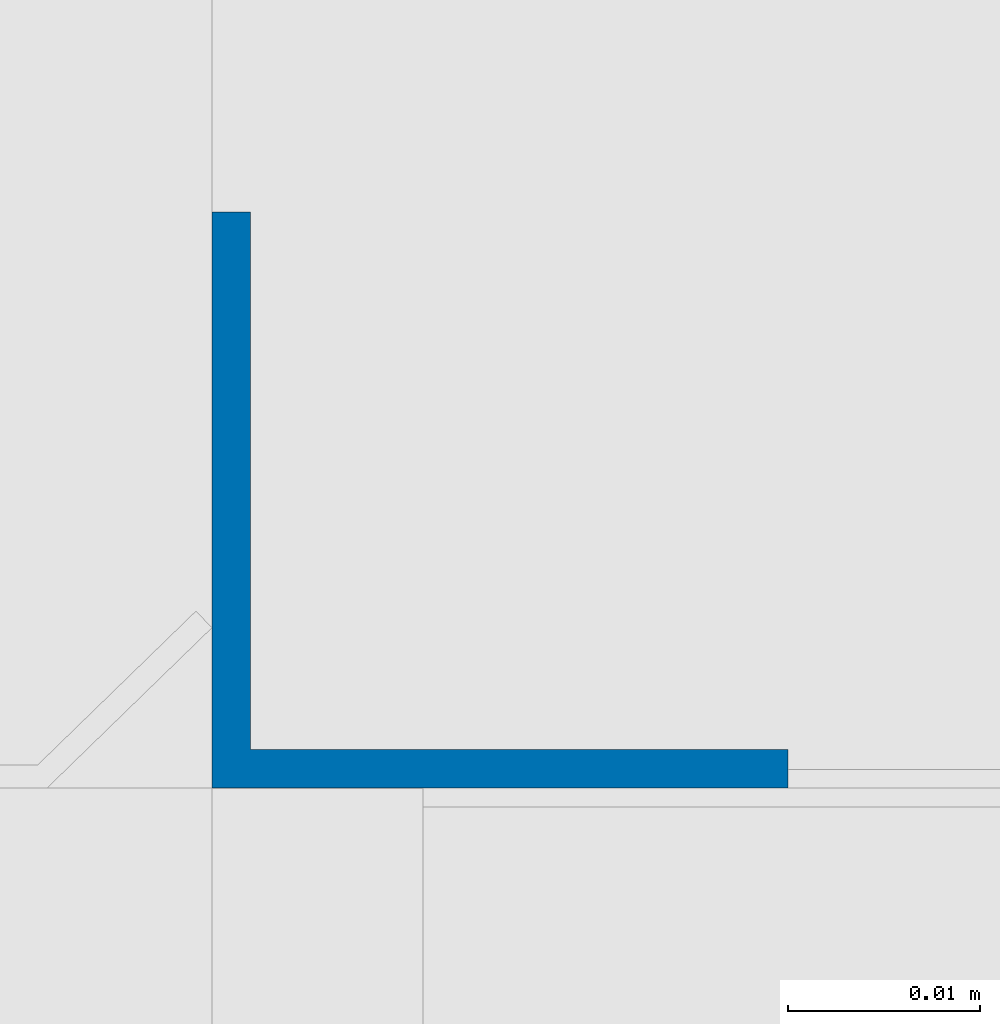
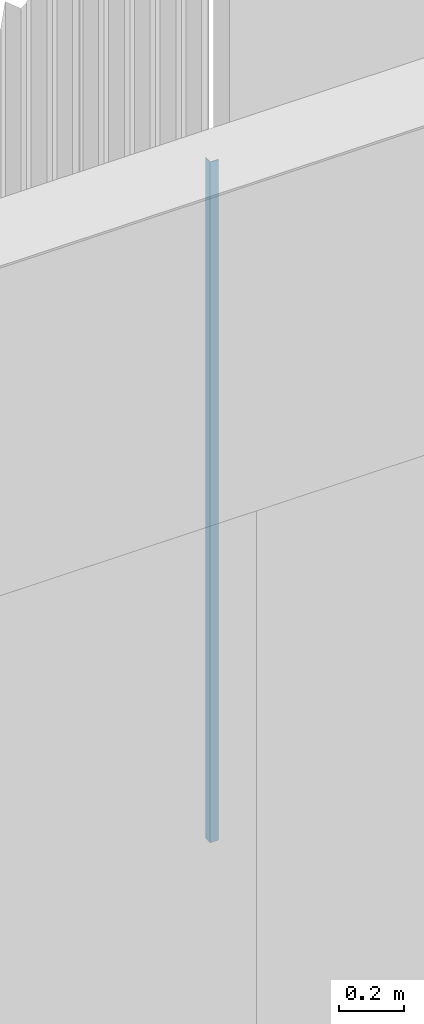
# One storey, part 33 of 338: 1 column.
"""IFC2X3 building model written with IfcOpenShell, lengths in millimetres."""

import ifcopenshell
import ifcopenshell.guid

model = None  # the IFC model being written
_history = None  # IfcOwnerHistory: only IFC2X3 demands one
_inside = {}  # id of a spatial element -> (the spatial element, [elements in it])
_under = {}  # id of a project, library or spatial element -> (it, [spatial elements below it])
_declared = {}  # id of a project -> (the project, [libraries it declares])
_typed = {}  # id of a type object -> (the type object, [elements of that type])
_made_of = {}  # id of a material, layer set ... -> (it, [elements and type objects made of it])


def new_model(schema):
    """Start an empty IFC model of exactly this schema.

    Asked for "IFC4X3", IfcOpenShell would pick the latest addendum, in which some entities
    have other attributes; the version numbers below select the first issue.
    IFC2X3 requires an IfcOwnerHistory on every rooted entity: one is made here for all.
    """
    global model, _history
    if schema == "IFC4X3":
        model = ifcopenshell.file(schema_version=(4, 3, 0, 0))
    else:
        model = ifcopenshell.file(schema=schema)
    _inside.clear()
    _under.clear()
    _declared.clear()
    _typed.clear()
    _made_of.clear()
    _history = None
    if model.schema == "IFC2X3":
        org = make("IfcOrganization", Name="unknown")
        user = make(
            "IfcPersonAndOrganization",
            ThePerson=make("IfcPerson", FamilyName="unknown"),
            TheOrganization=org,
        )
        app = make(
            "IfcApplication",
            ApplicationDeveloper=org,
            Version="unknown",
            ApplicationFullName="unknown",
            ApplicationIdentifier="unknown",
        )
        _history = make(
            "IfcOwnerHistory",
            OwningUser=user,
            OwningApplication=app,
            ChangeAction="ADDED",
            CreationDate=0,
        )
    return model


def make(cls, **values):
    """One entity of the class cls with the attributes given. An attribute that is None is left unset."""
    return model.create_entity(
        cls, **{name: value for name, value in values.items() if value is not None}
    )


def entity(cls, *values):
    """Any entity or typed value of the class cls, its attributes in the order of the schema. None: left unset."""
    e = model.create_entity(cls)
    for i, value in enumerate(values):
        if value is not None:
            e[i] = value
    return e


def rooted(cls, **values):
    """An entity with a GlobalId (a new one), such as an element, a storey or a relation."""
    return make(cls, GlobalId=ifcopenshell.guid.new(), OwnerHistory=_history, **values)


def si_unit(unit_type, name, prefix=None):
    """IfcSIUnit, for example si_unit("LENGTHUNIT", "METRE", prefix="MILLI")."""
    return make("IfcSIUnit", UnitType=unit_type, Prefix=prefix, Name=name)


def converted_unit(unit_type, name, factor, base, dimensions=None, offset=None):
    """IfcConversionBasedUnit, such as the inch: factor (a typed value) times the base unit."""
    return make(
        "IfcConversionBasedUnit"
        if offset is None
        else "IfcConversionBasedUnitWithOffset",
        ConversionOffset=offset,
        Dimensions=None
        if dimensions is None
        else entity("IfcDimensionalExponents", *dimensions),
        UnitType=unit_type,
        Name=name,
        ConversionFactor=make(
            "IfcMeasureWithUnit", ValueComponent=factor, UnitComponent=base
        ),
    )


def derived_unit(unit_type, elements):
    """IfcDerivedUnit: a product of units, each with its exponent."""
    return make(
        "IfcDerivedUnit",
        Elements=[
            make("IfcDerivedUnitElement", Unit=unit, Exponent=power)
            for unit, power in elements
        ],
        UnitType=unit_type,
    )


def money_unit(currency):
    """IfcMonetaryUnit."""
    return make("IfcMonetaryUnit", Currency=currency)


def assignment(units):
    """IfcUnitAssignment: the units of a project."""
    return None if units is None else make("IfcUnitAssignment", Units=units)


def point(xyz):
    """IfcCartesianPoint."""
    return None if xyz is None else make("IfcCartesianPoint", Coordinates=xyz)


def direction(xyz):
    """IfcDirection."""
    return None if xyz is None else make("IfcDirection", DirectionRatios=xyz)


def frame(location, z_axis=None, x_axis=None):
    """IfcAxis2Placement3D, a coordinate frame: its origin and axes. An axis left out is left unset."""
    return make(
        "IfcAxis2Placement3D",
        Location=point(location),
        Axis=direction(z_axis),
        RefDirection=direction(x_axis),
    )


def origin_with_axes():
    """The frame at (0, 0, 0) with the z axis (0, 0, 1) and the x axis (1, 0, 0) written out."""
    return frame((0.0, 0.0, 0.0), z_axis=(0.0, 0.0, 1.0), x_axis=(1.0, 0.0, 0.0))


def place(relative_to, where):
    """IfcLocalPlacement: puts the frame where relative to a parent placement (None: the world)."""
    return make(
        "IfcLocalPlacement", PlacementRelTo=relative_to, RelativePlacement=where
    )


def context(
    kind, dimensions, precision=None, world=None, true_north=None, identifier=None
):
    """IfcGeometricRepresentationContext, for example the 3D "Model" context."""
    return make(
        "IfcGeometricRepresentationContext",
        ContextIdentifier=identifier,
        ContextType=kind,
        CoordinateSpaceDimension=dimensions,
        Precision=precision,
        WorldCoordinateSystem=world,
        TrueNorth=true_north,
    )


def subcontext(parent, identifier, kind, view, scale=None):
    """IfcGeometricRepresentationSubContext, for example "Body" below "Model"."""
    return make(
        "IfcGeometricRepresentationSubContext",
        ContextIdentifier=identifier,
        ContextType=kind,
        ParentContext=parent,
        TargetScale=scale,
        TargetView=view,
    )


def project(units=None, contexts=None):
    """IfcProject with its units and contexts."""
    return rooted(
        "IfcProject",
        Name="project",
        RepresentationContexts=contexts,
        UnitsInContext=assignment(units),
    )


def spatial(cls, under=None, at=None, **own):
    """A site, building, storey or space (cls), placed at a placement, below another one or the project."""
    s = rooted(cls, ObjectPlacement=at, **own)
    if under is not None:
        _under.setdefault(under.id(), (under, []))[1].append(s)
    return s


def faces_of(points, faces, orient=None, outer=None):
    """IfcFace entities. A face is a list of loops; a loop is a list of indices into points, from 0.

    orient and outer hold one flag for each loop. By default every Orientation is true, the
    first loop of a face is its IfcFaceOuterBound and the others are IfcFaceBound.
    """
    made = []
    for i, loops in enumerate(faces):
        bounds = []
        for j, loop in enumerate(loops):
            is_outer = j == 0 if outer is None else outer[i][j]
            bounds.append(
                make(
                    "IfcFaceOuterBound" if is_outer else "IfcFaceBound",
                    Bound=make("IfcPolyLoop", Polygon=[points[k] for k in loop]),
                    Orientation=True if orient is None else orient[i][j],
                )
            )
        made.append(make("IfcFace", Bounds=bounds))
    return made


def faceted_brep(points, faces, orient=None, outer=None, voids=None):
    """IfcFacetedBrep: a solid bounded by flat faces; with voids (closed shells), ...WithVoids."""
    shared = [point(p) for p in points]
    hull = make("IfcClosedShell", CfsFaces=faces_of(shared, faces, orient, outer))
    if voids is None:
        return make("IfcFacetedBrep", Outer=hull)
    return make(
        "IfcFacetedBrepWithVoids",
        Outer=hull,
        Voids=[
            make(cls, CfsFaces=faces_of(shared, fs, o, b)) for cls, fs, o, b in voids
        ],
    )


def shape(context_of_items, identifier, shape_type, items):
    """IfcShapeRepresentation: the items that make up one representation, for example the "Body"."""
    return make(
        "IfcShapeRepresentation",
        ContextOfItems=context_of_items,
        RepresentationIdentifier=identifier,
        RepresentationType=shape_type,
        Items=items,
    )


def material(Name=None, Category=None):
    """IfcMaterial."""
    return make("IfcMaterial", Name=Name, Category=Category)


def made_of(thing, what):
    """Note that an element or type object is made of a material, layer set ...; save() writes the relation."""
    if what is not None:
        _made_of.setdefault(what.id(), (what, []))[1].append(thing)
    return thing


def type_object(cls, material=None, **own):
    """A type object (cls), such as IfcWallType, which elements share."""
    return made_of(rooted(cls, **own), material)


def element(
    cls,
    number,
    at=None,
    inside=None,
    cuts=None,
    type_object=None,
    material=None,
    context=None,
    identifier="Body",
    shape_type=None,
    held_by="IfcProductDefinitionShape",
    body=None,
    shapes=None,
    **own,
):
    """One element of the class cls, such as IfcWall. Its Tag is "e" and its number.

    at: its placement. inside: the storey or other place that contains it. cuts: it is an
    opening in that element (IfcRelVoidsElement). A single representation is given by context,
    identifier, shape_type and body (its items); several are given by shapes. held_by: the class
    of the entity that holds the representations. save() writes the other relations.
    """
    e = rooted(cls, Tag="e%d" % number, ObjectPlacement=at, **own)
    if body is not None:
        shapes = [shape(context, identifier, shape_type, body)]
    if shapes is not None:
        e.Representation = make(held_by, Representations=shapes)
    if inside is not None:
        _inside.setdefault(inside.id(), (inside, []))[1].append(e)
    if cuts is not None:
        rooted(
            "IfcRelVoidsElement", RelatingBuildingElement=cuts, RelatedOpeningElement=e
        )
    if type_object is not None:
        _typed.setdefault(type_object.id(), (type_object, []))[1].append(e)
    return made_of(e, material)


def aggregate(whole, parts):
    """IfcRelAggregates: a whole, such as a stair, and the parts it consists of."""
    return rooted("IfcRelAggregates", RelatingObject=whole, RelatedObjects=parts)


def save(model, path):
    """Write the relations noted so far, then the file.

    IfcRelAggregates (storeys below a building ...), IfcRelContainedInSpatialStructure (elements
    in a storey), IfcRelDefinesByType, IfcRelAssociatesMaterial and IfcRelDeclares: one each for
    every whole, place, type object, material and project.
    """
    for whole, parts in _under.values():
        aggregate(whole, parts)
    for where, things in _inside.values():
        rooted(
            "IfcRelContainedInSpatialStructure",
            RelatedElements=things,
            RelatingStructure=where,
        )
    for kind, things in _typed.values():
        rooted("IfcRelDefinesByType", RelatedObjects=things, RelatingType=kind)
    for what, things in _made_of.values():
        rooted("IfcRelAssociatesMaterial", RelatedObjects=things, RelatingMaterial=what)
    for by, libraries in _declared.values():
        rooted("IfcRelDeclares", RelatingContext=by, RelatedDefinitions=libraries)
    model.write(path)


model = new_model("IFC2X3")

# Units and contexts
model_context = context("Model", 3, precision=0.01, world=origin_with_axes(), true_north=direction((0.0, 1.0)))
plan_context = context("Plan", 3, precision=0.01, world=origin_with_axes(), true_north=direction((0.0, 1.0)))
body_context = subcontext(model_context, "Body", "Model", "MODEL_VIEW")
ifc_project = project(units=[si_unit("LENGTHUNIT", "METRE", prefix="MILLI"), si_unit("AREAUNIT", "SQUARE_METRE"), si_unit("VOLUMEUNIT", "CUBIC_METRE"), converted_unit("PLANEANGLEUNIT", "DEGREE", entity("IfcPlaneAngleMeasure", 0.0174532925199), si_unit("PLANEANGLEUNIT", "RADIAN"), dimensions=[0, 0, 0, 0, 0, 0, 0]), money_unit("EUR"), converted_unit("TIMEUNIT", "Year", entity("IfcTimeMeasure", 31556926.0), si_unit("TIMEUNIT", "SECOND"), dimensions=[0, 0, 1, 0, 0, 0, 0]), si_unit("MASSUNIT", "GRAM", prefix="KILO"), si_unit("THERMODYNAMICTEMPERATUREUNIT", "DEGREE_CELSIUS"), si_unit("LUMINOUSINTENSITYUNIT", "LUMEN"), si_unit("ENERGYUNIT", "JOULE", prefix="MEGA"), derived_unit("THERMALCONDUCTANCEUNIT", [(si_unit("POWERUNIT", "WATT"), 1), (si_unit("LENGTHUNIT", "METRE"), -1), (si_unit("THERMODYNAMICTEMPERATUREUNIT", "KELVIN"), -1)]), derived_unit("SPECIFICHEATCAPACITYUNIT", [(si_unit("ENERGYUNIT", "JOULE"), 1), (si_unit("MASSUNIT", "GRAM", prefix="KILO"), -1), (si_unit("THERMODYNAMICTEMPERATUREUNIT", "KELVIN"), -1)]), derived_unit("MASSDENSITYUNIT", [(si_unit("MASSUNIT", "GRAM", prefix="KILO"), 1), (si_unit("VOLUMEUNIT", "CUBIC_METRE"), -1)])], contexts=[model_context, plan_context])

# Site, building, storey
site_placement = place(None, origin_with_axes())
site = spatial("IfcSite", under=ifc_project, at=site_placement, Name="Fortuinstraat Woensdrecht", CompositionType="ELEMENT")
building_placement = place(site_placement, origin_with_axes())
building = spatial("IfcBuilding", under=site, at=building_placement, Name="IKC Fortuna", CompositionType="ELEMENT")
storey_placement = place(building_placement, origin_with_axes())
storey = spatial("IfcBuildingStorey", under=building, at=storey_placement, Name="00 begane grond", CompositionType="ELEMENT", Elevation=0.0)

# Column
ifc_material = material(Name="Metaal - Staal C")
column_type = type_object("IfcColumnType", Name="L30/2 30 x 30", PredefinedType="COLUMN")
column_placement = place(storey_placement, frame((44613.4270796, 35596.2966282, 1000.41195258), z_axis=(0.0, 0.0, 1.0), x_axis=(1.0, 0.0, 0.0)))
element("IfcColumn", 1, at=column_placement, inside=storey, type_object=column_type, material=ifc_material, Name="28_Kolom_omtimmering kolom", ObjectType="COLUMN", context=body_context, shape_type="Brep", body=[
    faceted_brep([(0.0, 0.0, 2566.19518162), (0.0, 0.0, 0.0), (30.0, 0.0, 0.0), (30.0, 0.0, 2566.19518162), (0.0, 30.0, 2566.19518162), (0.0, 30.0, 0.0), (2.0, 30.0, 0.0), (2.0, 2.0, 0.0), (30.0, 2.0, 0.0), (30.0, 2.0, 2566.19518162), (2.0, 2.0, 2566.19518162), (2.0, 30.0, 2566.19518162)], [[[0, 1, 2, 3]], [[4, 5, 1, 0]], [[2, 1, 5, 6, 7, 8]], [[3, 2, 8, 9]], [[4, 0, 3, 9, 10, 11]], [[11, 6, 5, 4]], [[10, 7, 6, 11]], [[9, 8, 7, 10]]]),
])

save(model, "model.ifc")
